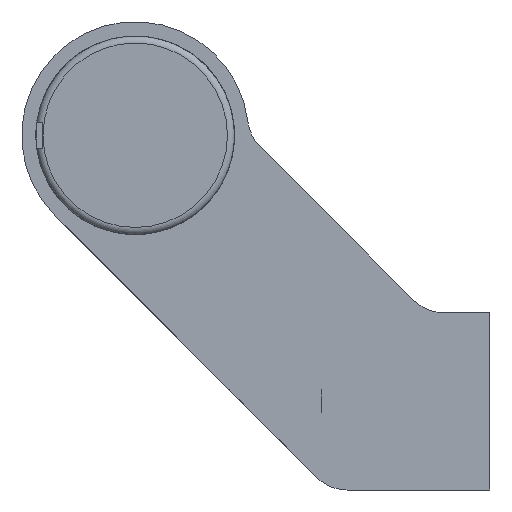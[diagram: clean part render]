
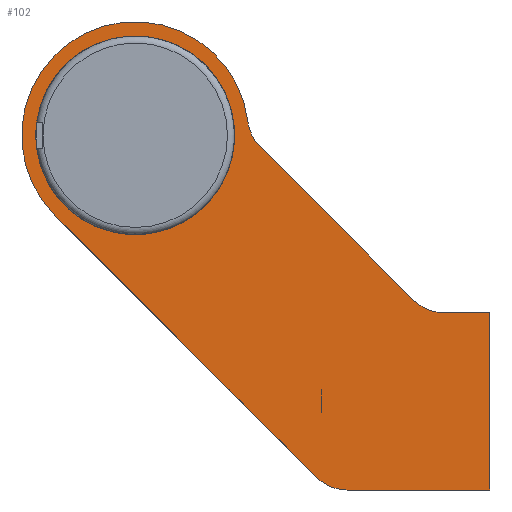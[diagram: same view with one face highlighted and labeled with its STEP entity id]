
A CAD part, left-side view. The second image highlights one B-rep face of the part: STEP entity #102.
In plain terms, the highlighted planar face has unit normal (-1, 0, 0).
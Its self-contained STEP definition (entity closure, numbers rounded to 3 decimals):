
#102 = ADVANCED_FACE( '', ( #191, #192 ), #193, .F. );
#191 = FACE_BOUND( '', #320, .T. );
#192 = FACE_OUTER_BOUND( '', #321, .T. );
#193 = PLANE( '', #322 );
#320 = EDGE_LOOP( '', ( #581 ) );
#321 = EDGE_LOOP( '', ( #582, #583, #584, #585, #586, #587, #588, #589, #590 ) );
#322 = AXIS2_PLACEMENT_3D( '', #591, #592, #593 );
#581 = ORIENTED_EDGE( '', *, *, #776, .T. );
#582 = ORIENTED_EDGE( '', *, *, #794, .F. );
#583 = ORIENTED_EDGE( '', *, *, #820, .F. );
#584 = ORIENTED_EDGE( '', *, *, #817, .F. );
#585 = ORIENTED_EDGE( '', *, *, #814, .F. );
#586 = ORIENTED_EDGE( '', *, *, #810, .F. );
#587 = ORIENTED_EDGE( '', *, *, #807, .T. );
#588 = ORIENTED_EDGE( '', *, *, #804, .F. );
#589 = ORIENTED_EDGE( '', *, *, #801, .T. );
#590 = ORIENTED_EDGE( '', *, *, #798, .F. );
#591 = CARTESIAN_POINT( '', ( -157., 50., 37.5 ) );
#592 = DIRECTION( '', ( 1., 0., 0. ) );
#593 = DIRECTION( '', ( 0., 0., -1. ) );
#776 = EDGE_CURVE( '', #900, #900, #901, .T. );
#794 = EDGE_CURVE( '', #931, #932, #933, .T. );
#798 = EDGE_CURVE( '', #932, #939, #940, .T. );
#801 = EDGE_CURVE( '', #944, #939, #945, .T. );
#804 = EDGE_CURVE( '', #944, #949, #950, .T. );
#807 = EDGE_CURVE( '', #954, #949, #955, .T. );
#810 = EDGE_CURVE( '', #954, #959, #960, .T. );
#814 = EDGE_CURVE( '', #959, #966, #967, .T. );
#817 = EDGE_CURVE( '', #966, #971, #972, .T. );
#820 = EDGE_CURVE( '', #971, #931, #976, .T. );
#900 = VERTEX_POINT( '', #1129 );
#901 = CIRCLE( '', #1130, 14. );
#931 = VERTEX_POINT( '', #1172 );
#932 = VERTEX_POINT( '', #1173 );
#933 = LINE( '', #1174, #1175 );
#939 = VERTEX_POINT( '', #1184 );
#940 = CIRCLE( '', #1185, 16. );
#944 = VERTEX_POINT( '', #1190 );
#945 = CIRCLE( '', #1191, 6. );
#949 = VERTEX_POINT( '', #1196 );
#950 = LINE( '', #1197, #1198 );
#954 = VERTEX_POINT( '', #1204 );
#955 = CIRCLE( '', #1205, 6. );
#959 = VERTEX_POINT( '', #1210 );
#960 = LINE( '', #1211, #1212 );
#966 = VERTEX_POINT( '', #1220 );
#967 = LINE( '', #1221, #1222 );
#971 = VERTEX_POINT( '', #1228 );
#972 = LINE( '', #1229, #1230 );
#976 = CIRCLE( '', #1236, 6. );
#1129 = CARTESIAN_POINT( '', ( -157., 50., 23.5 ) );
#1130 = AXIS2_PLACEMENT_3D( '', #1319, #1320, #1321 );
#1172 = CARTESIAN_POINT( '', ( -157., 24.385, -10.743 ) );
#1173 = CARTESIAN_POINT( '', ( -157., 61.314, 26.186 ) );
#1174 = CARTESIAN_POINT( '', ( -157., 24.385, -10.743 ) );
#1175 = VECTOR( '', #1360, 1000. );
#1184 = CARTESIAN_POINT( '', ( -157., 34.116, 39.424 ) );
#1185 = AXIS2_PLACEMENT_3D( '', #1364, #1365, #1366 );
#1190 = CARTESIAN_POINT( '', ( -157., 32.402, 35.902 ) );
#1191 = AXIS2_PLACEMENT_3D( '', #1371, #1372, #1373 );
#1196 = CARTESIAN_POINT( '', ( -157., 10.757, 14.257 ) );
#1197 = CARTESIAN_POINT( '', ( -157., 32.402, 35.902 ) );
#1198 = VECTOR( '', #1378, 1000. );
#1204 = CARTESIAN_POINT( '', ( -157., 6.515, 12.5 ) );
#1205 = AXIS2_PLACEMENT_3D( '', #1381, #1382, #1383 );
#1210 = CARTESIAN_POINT( '', ( -157., 0., 12.5 ) );
#1211 = CARTESIAN_POINT( '', ( -157., 6.515, 12.5 ) );
#1212 = VECTOR( '', #1388, 1000. );
#1220 = CARTESIAN_POINT( '', ( -157., 0., -12.5 ) );
#1221 = CARTESIAN_POINT( '', ( -157., 0., 12.5 ) );
#1222 = VECTOR( '', #1394, 1000. );
#1228 = CARTESIAN_POINT( '', ( -157., 20.142, -12.5 ) );
#1229 = CARTESIAN_POINT( '', ( -157., 0., -12.5 ) );
#1230 = VECTOR( '', #1397, 1000. );
#1236 = AXIS2_PLACEMENT_3D( '', #1400, #1401, #1402 );
#1319 = CARTESIAN_POINT( '', ( -157., 50., 37.5 ) );
#1320 = DIRECTION( '', ( 1., 0., 0. ) );
#1321 = DIRECTION( '', ( 0., 0., -1. ) );
#1360 = DIRECTION( '', ( 0., 0.707, 0.707 ) );
#1364 = CARTESIAN_POINT( '', ( -157., 50., 37.5 ) );
#1365 = DIRECTION( '', ( 1., 0., 0. ) );
#1366 = DIRECTION( '', ( 0., 0., -1. ) );
#1371 = CARTESIAN_POINT( '', ( -157., 28.16, 40.145 ) );
#1372 = DIRECTION( '', ( 1., 0., 0. ) );
#1373 = DIRECTION( '', ( 0., 0., -1. ) );
#1378 = DIRECTION( '', ( 0., -0.707, -0.707 ) );
#1381 = CARTESIAN_POINT( '', ( -157., 6.515, 18.5 ) );
#1382 = DIRECTION( '', ( 1., 0., 0. ) );
#1383 = DIRECTION( '', ( 0., 0., -1. ) );
#1388 = DIRECTION( '', ( 0., -1., 0. ) );
#1394 = DIRECTION( '', ( 0., 0., -1. ) );
#1397 = DIRECTION( '', ( 0., 1., 0. ) );
#1400 = CARTESIAN_POINT( '', ( -157., 20.142, -6.5 ) );
#1401 = DIRECTION( '', ( 1., 0., 0. ) );
#1402 = DIRECTION( '', ( 0., 0., -1. ) );
